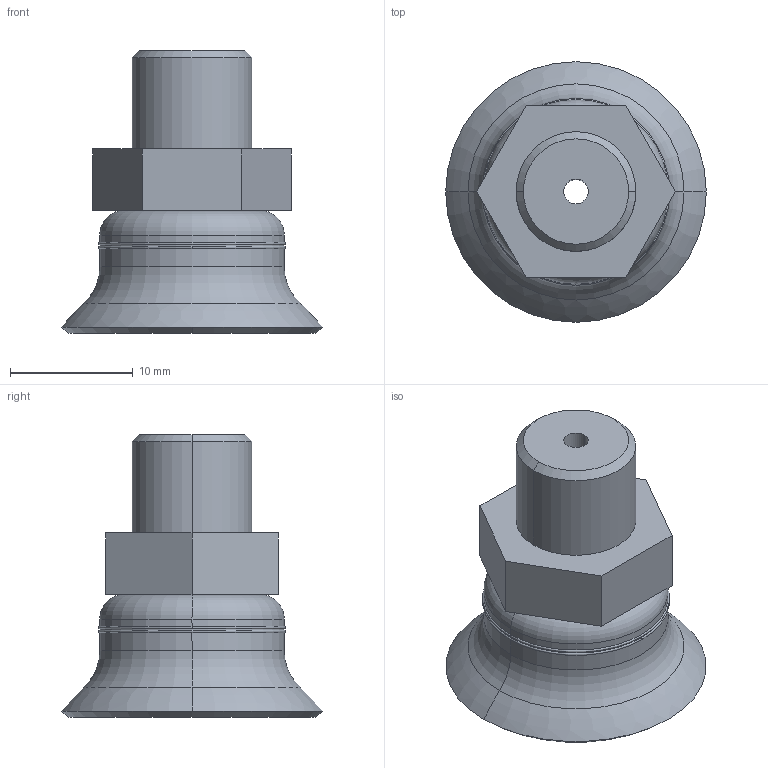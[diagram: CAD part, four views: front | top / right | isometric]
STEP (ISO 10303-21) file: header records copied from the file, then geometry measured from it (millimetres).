
FILE_DESCRIPTION (( 'STEP AP203' ), '1' );
FILE_NAME ('PFYN 20 NBR-AS-55 G1_8-AG.STEP', '2024-05-15T01:06:20', ( '微软用户' ), ( '微软中国' ), 'SwSTEP 2.0', 'SolidWorks 2018', '' );
FILE_SCHEMA (( 'CONFIG_CONTROL_DESIGN' ));
Length unit declared in the file: millimetre
Products named in the file (1): PFYN 20 NBR-AS-55 G1_8-AG
Bounding box: 21.2 x 21.2 x 23 mm (x, y, z)
Volume: 2833.4 mm3; surface area: 1984.1 mm2
Topology: 1 solids, 1 shells, 43 faces, 98 edges, 60 vertices
Faces by surface type: cylinder 14, torus 12, plane 11, cone 6
Entity records: 1305 total; most frequent: DIRECTION 246, CARTESIAN_POINT 202, ORIENTED_EDGE 196, AXIS2_PLACEMENT_3D 104, EDGE_CURVE 98, VERTEX_POINT 60, CIRCLE 60, EDGE_LOOP 48
